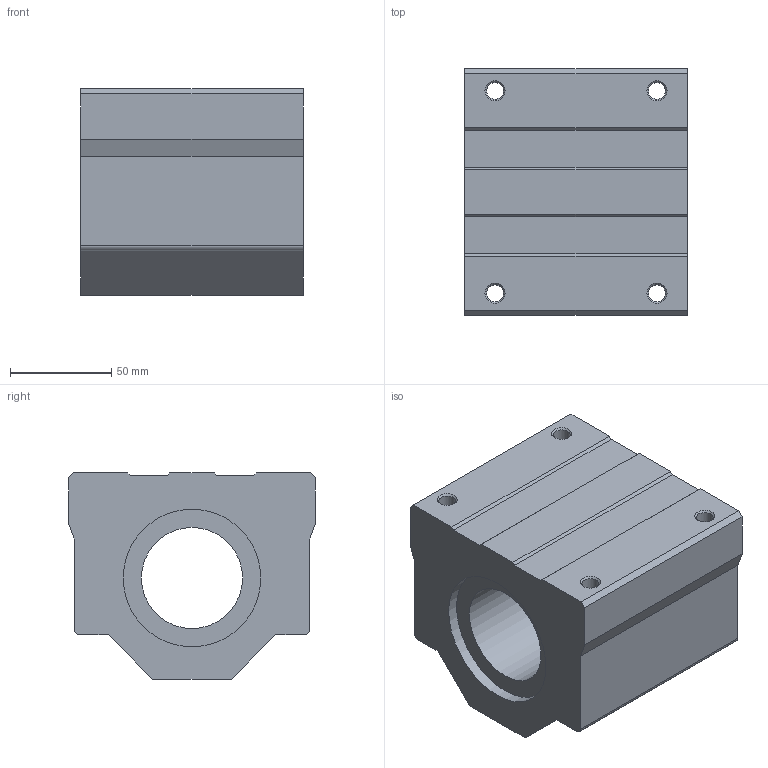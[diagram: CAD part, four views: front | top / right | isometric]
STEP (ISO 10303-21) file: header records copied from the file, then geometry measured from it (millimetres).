
FILE_DESCRIPTION( ( 'Unknown' ), '1' );
FILE_NAME( 'D:/累诀/己绕皋墨飘肺葱胶/11-04-06_档搁累己/01_府聪绢何教/SC/SC 50.stp', 'Unknown', ( 'Unknown' ), ( 'Unknown' ), 'PSStep 11.0', 'Unknown', ' ' );
FILE_SCHEMA( ( 'AUTOMOTIVE_DESIGN { 1 0 10303 214 1 1 1 1 }' ) );
Length unit declared in the file: millimetre
Products named in the file (1): 1
Bounding box: 110 x 122 x 102 mm (x, y, z)
Volume: 928913.6 mm3; surface area: 88949.4 mm2
Topology: 1 solids, 1 shells, 43 faces, 121 edges, 82 vertices
Faces by surface type: plane 26, cylinder 13, cone 4
Full cylindrical faces by diameter (mm): 8.376 x8, 50 x1, 68 x2
Entity records: 1590 total; most frequent: CARTESIAN_POINT 208, DIRECTION 208, ORIENTED_EDGE 188, EDGE_CURVE 94, AXIS2_PLACEMENT_3D 70, EDGE_LOOP 70, VERTEX_POINT 70, LINE 68
